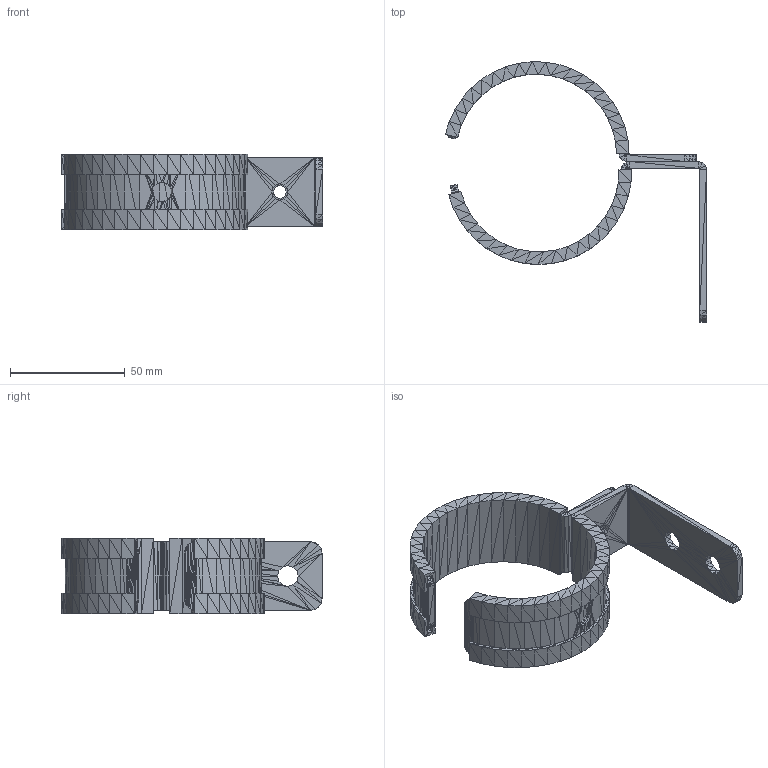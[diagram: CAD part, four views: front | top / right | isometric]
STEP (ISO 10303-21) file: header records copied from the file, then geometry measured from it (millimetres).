
FILE_DESCRIPTION((''),'2;1');
FILE_NAME('028448', '2025-07-30T06:14:52', (''), (''), 'ImageToStl.com STEP Converter','', '');
FILE_SCHEMA(('AUTOMOTIVE_DESIGN_CC2'));
Length unit declared in the file: metre
Products named in the file (1): product0
Bounding box: 113.82 x 113.46 x 33 mm (x, y, z)
Surface area: 49012.2 mm2 (no closed solid volume)
Topology: 0 solids, 2038 shells, 2038 faces, 6114 edges, 1011 vertices
Faces by surface type: plane 2038
Entity records: 46886 total; most frequent: DIRECTION 10192, ORIENTED_EDGE 6114, EDGE_CURVE 6114, LINE 6114, VECTOR 6114, AXIS2_PLACEMENT_3D 2039, FACE_SURFACE 2038, PLANE 2038
